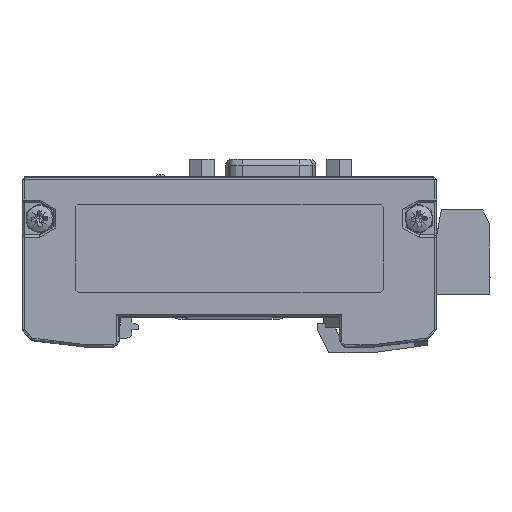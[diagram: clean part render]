
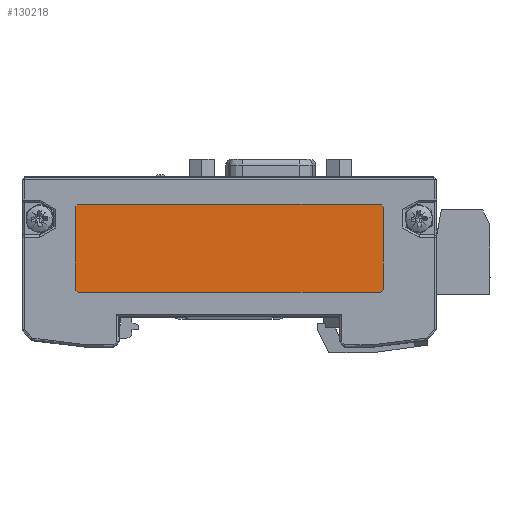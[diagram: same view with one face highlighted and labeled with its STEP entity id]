
A CAD part, left-side view. The second image highlights one B-rep face of the part: STEP entity #130218.
In plain terms, the highlighted planar face has unit normal (-1, 0, 0) as drawn and (0, 0, -1) by its records, which use the part's own axes.
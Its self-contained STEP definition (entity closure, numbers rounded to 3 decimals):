
#1822 = EDGE_CURVE ( 'NONE', #411194, #82680, #423769, .T. ) ;
#17097 = ORIENTED_EDGE ( 'NONE', *, *, #306173, .T. ) ;
#17932 = EDGE_CURVE ( 'NONE', #82680, #417127, #225223, .T. ) ;
#21590 = CARTESIAN_POINT ( 'NONE',  ( -5., 28., -3.9 ) ) ;
#34181 = CARTESIAN_POINT ( 'NONE',  ( -20.25, -28., -3.9 ) ) ;
#42343 = ORIENTED_EDGE ( 'NONE', *, *, #246373, .T. ) ;
#42689 = VERTEX_POINT ( 'NONE', #297009 ) ;
#54002 = AXIS2_PLACEMENT_3D ( 'NONE', #200707, #129029, #444495 ) ;
#54420 = DIRECTION ( 'NONE',  ( -1., 0., 0. ) ) ;
#65140 = CIRCLE ( 'NONE', #324191, 0.75 ) ;
#82680 = VERTEX_POINT ( 'NONE', #118514 ) ;
#89240 = CARTESIAN_POINT ( 'NONE',  ( -5., -28., -3.9 ) ) ;
#98481 = VERTEX_POINT ( 'NONE', #176482 ) ;
#113682 = CARTESIAN_POINT ( 'NONE',  ( -20.25, 28., -3.9 ) ) ;
#116530 = CARTESIAN_POINT ( 'NONE',  ( -5.75, -27.25, -3.9 ) ) ;
#118514 = CARTESIAN_POINT ( 'NONE',  ( -21., 27.25, -3.9 ) ) ;
#120146 = EDGE_CURVE ( 'NONE', #417127, #98481, #216148, .T. ) ;
#129029 = DIRECTION ( 'NONE',  ( 0., 0., -1. ) ) ;
#130218 = ADVANCED_FACE ( 'NONE', ( #349296 ), #351604, .T. ) ;
#136213 = VECTOR ( 'NONE', #54420, 1000. ) ;
#148581 = AXIS2_PLACEMENT_3D ( 'NONE', #215949, #429546, #183514 ) ;
#156179 = CIRCLE ( 'NONE', #148581, 0.75 ) ;
#157971 = ORIENTED_EDGE ( 'NONE', *, *, #280282, .T. ) ;
#159325 = EDGE_CURVE ( 'NONE', #428947, #411194, #156179, .T. ) ;
#168686 = ORIENTED_EDGE ( 'NONE', *, *, #159325, .T. ) ;
#174202 = ORIENTED_EDGE ( 'NONE', *, *, #262298, .T. ) ;
#176482 = CARTESIAN_POINT ( 'NONE',  ( -5.75, 28., -3.9 ) ) ;
#183514 = DIRECTION ( 'NONE',  ( -1., 0., 0. ) ) ;
#190185 = VECTOR ( 'NONE', #429751, 1000. ) ;
#192736 = VERTEX_POINT ( 'NONE', #393898 ) ;
#200707 = CARTESIAN_POINT ( 'NONE',  ( -5.75, 27.25, -3.9 ) ) ;
#215949 = CARTESIAN_POINT ( 'NONE',  ( -20.25, -27.25, -3.9 ) ) ;
#216148 = LINE ( 'NONE', #397225, #190185 ) ;
#225223 = CIRCLE ( 'NONE', #410982, 0.75 ) ;
#230537 = AXIS2_PLACEMENT_3D ( 'NONE', #279425, #316607, #416596 ) ;
#246373 = EDGE_CURVE ( 'NONE', #342316, #428947, #374444, .T. ) ;
#262298 = EDGE_CURVE ( 'NONE', #42689, #192736, #339381, .T. ) ;
#262342 = ORIENTED_EDGE ( 'NONE', *, *, #120146, .T. ) ;
#271235 = VECTOR ( 'NONE', #378819, 1000. ) ;
#272537 = CARTESIAN_POINT ( 'NONE',  ( -20.25, 27.25, -3.9 ) ) ;
#277124 = DIRECTION ( 'NONE',  ( -1., 0., 0. ) ) ;
#279425 = CARTESIAN_POINT ( 'NONE',  ( 0., 0., -3.9 ) ) ;
#280282 = EDGE_CURVE ( 'NONE', #98481, #42689, #394645, .T. ) ;
#286563 = CARTESIAN_POINT ( 'NONE',  ( -21., -28., -3.9 ) ) ;
#297009 = CARTESIAN_POINT ( 'NONE',  ( -5., 27.25, -3.9 ) ) ;
#304258 = ORIENTED_EDGE ( 'NONE', *, *, #1822, .T. ) ;
#306173 = EDGE_CURVE ( 'NONE', #192736, #342316, #65140, .T. ) ;
#308011 = EDGE_LOOP ( 'NONE', ( #304258, #312259, #262342, #157971, #174202, #17097, #42343, #168686 ) ) ;
#312259 = ORIENTED_EDGE ( 'NONE', *, *, #17932, .T. ) ;
#316607 = DIRECTION ( 'NONE',  ( 0., 0., -1. ) ) ;
#324191 = AXIS2_PLACEMENT_3D ( 'NONE', #116530, #431971, #353308 ) ;
#339381 = LINE ( 'NONE', #21590, #271235 ) ;
#342316 = VERTEX_POINT ( 'NONE', #415088 ) ;
#349296 = FACE_OUTER_BOUND ( 'NONE', #308011, .T. ) ;
#350748 = VECTOR ( 'NONE', #426051, 1000. ) ;
#351604 = PLANE ( 'NONE',  #230537 ) ;
#353308 = DIRECTION ( 'NONE',  ( -1., 0., 0. ) ) ;
#374444 = LINE ( 'NONE', #89240, #136213 ) ;
#378819 = DIRECTION ( 'NONE',  ( 0., -1., 0. ) ) ;
#386300 = DIRECTION ( 'NONE',  ( 0., 0., -1. ) ) ;
#390270 = CARTESIAN_POINT ( 'NONE',  ( -21., -27.25, -3.9 ) ) ;
#393898 = CARTESIAN_POINT ( 'NONE',  ( -5., -27.25, -3.9 ) ) ;
#394645 = CIRCLE ( 'NONE', #54002, 0.75 ) ;
#397225 = CARTESIAN_POINT ( 'NONE',  ( -21., 28., -3.9 ) ) ;
#410982 = AXIS2_PLACEMENT_3D ( 'NONE', #272537, #386300, #277124 ) ;
#411194 = VERTEX_POINT ( 'NONE', #390270 ) ;
#415088 = CARTESIAN_POINT ( 'NONE',  ( -5.75, -28., -3.9 ) ) ;
#416596 = DIRECTION ( 'NONE',  ( -1., 0., 0. ) ) ;
#417127 = VERTEX_POINT ( 'NONE', #113682 ) ;
#423769 = LINE ( 'NONE', #286563, #350748 ) ;
#426051 = DIRECTION ( 'NONE',  ( 0., 1., 0. ) ) ;
#428947 = VERTEX_POINT ( 'NONE', #34181 ) ;
#429546 = DIRECTION ( 'NONE',  ( 0., 0., -1. ) ) ;
#429751 = DIRECTION ( 'NONE',  ( 1., 0., 0. ) ) ;
#431971 = DIRECTION ( 'NONE',  ( 0., 0., -1. ) ) ;
#444495 = DIRECTION ( 'NONE',  ( -1., 0., 0. ) ) ;
